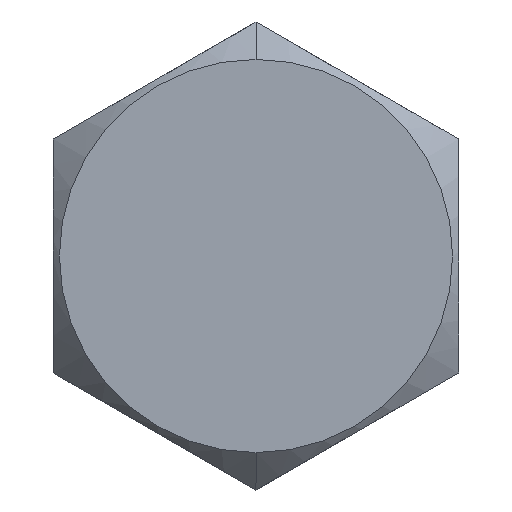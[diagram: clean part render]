
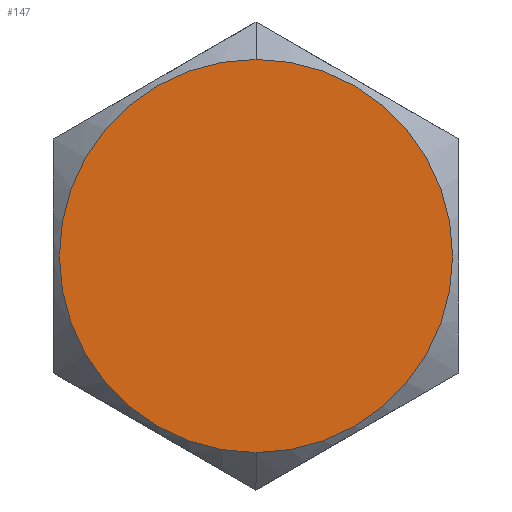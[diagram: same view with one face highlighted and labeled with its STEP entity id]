
A CAD part, left-side view. The second image highlights one B-rep face of the part: STEP entity #147.
In plain terms, the highlighted planar face has unit normal (-1, 0, 0).
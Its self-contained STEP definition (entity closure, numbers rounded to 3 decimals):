
#15 = ORIENTED_EDGE ( 'NONE', *, *, #267, .F. ) ;
#47 = PLANE ( 'NONE',  #73 ) ;
#53 = DIRECTION ( 'NONE',  ( 1., 0., 0. ) ) ;
#73 = AXIS2_PLACEMENT_3D ( 'NONE', #113, #301, #744 ) ;
#105 = CARTESIAN_POINT ( 'NONE',  ( 0., 0., 0. ) ) ;
#113 = CARTESIAN_POINT ( 'NONE',  ( 0., 0., 0. ) ) ;
#128 = FACE_OUTER_BOUND ( 'NONE', #396, .T. ) ;
#129 = VERTEX_POINT ( 'NONE', #810 ) ;
#147 = ADVANCED_FACE ( 'NONE', ( #128 ), #47, .F. ) ;
#207 = ORIENTED_EDGE ( 'NONE', *, *, #543, .F. ) ;
#223 = VERTEX_POINT ( 'NONE', #705 ) ;
#267 = EDGE_CURVE ( 'NONE', #129, #223, #540, .T. ) ;
#301 = DIRECTION ( 'NONE',  ( 1., 0., 0. ) ) ;
#355 = DIRECTION ( 'NONE',  ( 0., 0., -1. ) ) ;
#358 = CIRCLE ( 'NONE', #735, 6.306 ) ;
#387 = CARTESIAN_POINT ( 'NONE',  ( 0., 0., 0. ) ) ;
#390 = DIRECTION ( 'NONE',  ( 1., 0., 0. ) ) ;
#396 = EDGE_LOOP ( 'NONE', ( #15, #207 ) ) ;
#512 = AXIS2_PLACEMENT_3D ( 'NONE', #387, #390, #635 ) ;
#540 = CIRCLE ( 'NONE', #512, 6.306 ) ;
#543 = EDGE_CURVE ( 'NONE', #223, #129, #358, .T. ) ;
#635 = DIRECTION ( 'NONE',  ( 0., 0., -1. ) ) ;
#705 = CARTESIAN_POINT ( 'NONE',  ( 0., 0., 6.306 ) ) ;
#735 = AXIS2_PLACEMENT_3D ( 'NONE', #105, #53, #355 ) ;
#744 = DIRECTION ( 'NONE',  ( 0., 0., -1. ) ) ;
#810 = CARTESIAN_POINT ( 'NONE',  ( 0., 0., -6.306 ) ) ;
